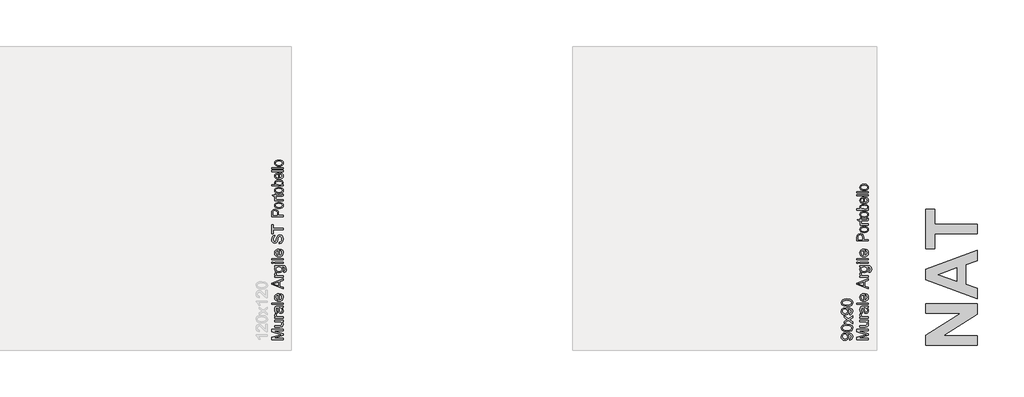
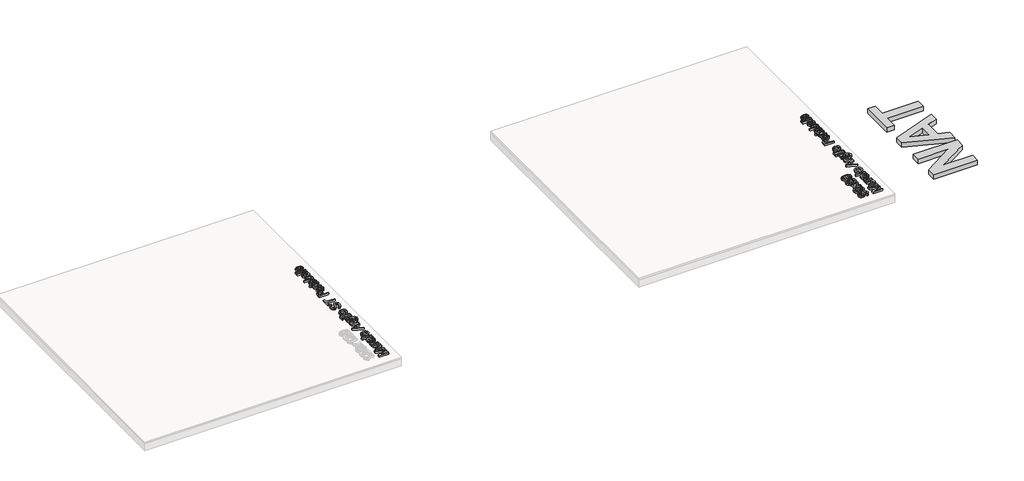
# One storey, part 8 of 21: 6 proxies.
"""IFC4 building model written with IfcOpenShell, lengths in millimetres."""

from ifc_helpers import new_model, si_unit, frame, origin, origin_with_axes, place, context, project, spatial, polyline, outline, extrude, element, save

model = new_model("IFC4")

# Units and contexts
model_context = context("Model", 3, world=origin())
ifc_project = project(units=[si_unit("LENGTHUNIT", "METRE", prefix="MILLI")], contexts=[model_context])

# Site, building, storey
site = spatial("IfcSite", under=ifc_project)
building = spatial("IfcBuilding", under=site)
storey = spatial("IfcBuildingStorey", under=building, Name="PORTOBELLO - SHOWROOM", Elevation=0.0)

# Proxies
placement = place(None, origin())
element("IfcBuildingElementProxy", 1, Name="10mm Arial", ObjectType="10mm Arial", at=placement, inside=storey, context=model_context, shape_type="SweptSolid", body=[
    extrude(outline(polyline([(28359.4625095, 4669.8696803), (28259.0061994, 4669.8696803), (28259.0061994, 4691.4030397), (28329.8112207, 4712.0044314), (28344.6000769, 4716.1737607), (28328.5849474, 4720.6619211), (28259.0061994, 4740.8709053), (28259.0061994, 4762.4778412), (28359.4625095, 4762.4778412), (28359.4625095, 4749.9208024), (28271.5632382, 4749.9208024), (28359.4625095, 4724.6840975), (28359.4625095, 4707.6879494), (28271.5632382, 4682.426719), (28359.4625095, 4682.426719), (28359.4625095, 4669.8696803)])), frame((0.0, 0.0, 18.0), z_axis=(0.0, 0.0, 1.0), x_axis=(1.0, 0.0, 0.0)), (0.0, 0.0, 1.0), 20.0),
    extrude(outline(polyline([(28359.4625095, 4829.9719246), (28346.7828434, 4829.9719246), (28357.4698154, 4820.1372126), (28361.0321394, 4807.3103937), (28358.5305418, 4795.5013816), (28352.2520224, 4787.3589268), (28343.0059216, 4783.6187932), (28331.3317996, 4782.8830292), (28285.6899068, 4782.8830292), (28285.6899068, 4795.4400679), (28325.4211622, 4795.4400679), (28338.2234557, 4796.2003574), (28345.7405111, 4801.1667643), (28348.4751006, 4810.5232297), (28345.6791974, 4821.0078666), (28338.0640401, 4827.9363109), (28324.0722616, 4829.9719246), (28285.6899068, 4829.9719246), (28285.6899068, 4842.5289633), (28359.4625095, 4842.5289633), (28359.4625095, 4829.9719246)])), frame((0.0, 0.0, 18.0), z_axis=(0.0, 0.0, 1.0), x_axis=(1.0, 0.0, 0.0)), (0.0, 0.0, 1.0), 20.0),
    extrude(outline(polyline([(28359.4625095, 4859.7948916), (28285.6899068, 4859.7948916), (28285.6899068, 4870.7823006), (28296.6037393, 4870.7823006), (28286.5482981, 4878.5813989), (28284.1202769, 4886.4295481), (28287.9953006, 4899.0356378), (28299.2524897, 4894.841783), (28296.6773157, 4886.0126152), (28299.1543878, 4878.9124927), (28306.0215184, 4874.3875441), (28320.6877472, 4872.3519304), (28359.4625095, 4872.3519304), (28359.4625095, 4859.7948916)])), frame((0.0, 0.0, 18.0), z_axis=(0.0, 0.0, 1.0), x_axis=(1.0, 0.0, 0.0)), (0.0, 0.0, 1.0), 20.0),
    extrude(outline(polyline([(28350.0447305, 4953.9726824), (28358.5550673, 4941.7957884), (28361.0321394, 4928.3435701), (28359.5422173, 4917.8497362), (28355.0724511, 4910.1088858), (28348.2850282, 4905.335617), (28339.8421365, 4903.7445273), (28329.9093226, 4906.148023), (28322.6988355, 4912.4633306), (28318.5785571, 4921.2557103), (28316.6900962, 4932.1204919), (28312.3736142, 4953.899106), (28309.577711, 4953.9726824), (28300.3070847, 4950.5145916), (28296.6773157, 4936.6331777), (28299.0930741, 4923.9289861), (28307.6647246, 4917.8711959), (28306.0950948, 4905.3141572), (28293.8323616, 4910.746548), (28286.6464, 4921.684906), (28284.1202769, 4938.2518585), (28286.3520944, 4953.4699103), (28291.9561634, 4962.0660863), (28300.478763, 4965.9165845), (28311.4661719, 4966.5297212), (28327.088894, 4966.5297212), (28348.9042963, 4967.1673833), (28359.4625095, 4969.6689809), (28359.4625095, 4957.1119421), (28350.0447305, 4953.9726824)]), holes=[polyline([(28324.9306529, 4953.9726824), (28328.7811511, 4933.7146472), (28330.8167648, 4922.9111793), (28334.1277028, 4918.0183487), (28338.9592197, 4916.3015661), (28345.7527738, 4920.0416997), (28348.4751006, 4931.0168459), (28345.470731, 4943.7210375), (28338.1989302, 4951.9125432), (28328.4868455, 4953.899106), (28324.9306529, 4953.9726824)])]), frame((0.0, 0.0, 18.0), z_axis=(0.0, 0.0, 1.0), x_axis=(1.0, 0.0, 0.0)), (0.0, 0.0, 1.0), 20.0),
    extrude(outline(polyline([(28359.4625095, 4983.7956495), (28259.0061994, 4983.7956495), (28259.0061994, 4996.3526882), (28359.4625095, 4996.3526882), (28359.4625095, 4983.7956495)])), frame((0.0, 0.0, 18.0), z_axis=(0.0, 0.0, 1.0), x_axis=(1.0, 0.0, 0.0)), (0.0, 0.0, 1.0), 20.0),
    extrude(outline(polyline([(28337.4876917, 5066.8388785), (28339.0573215, 5079.1506626), (28348.3340792, 5074.7146189), (28355.2686548, 5067.6359562), (28359.5912682, 5058.07409), (28361.0321394, 5046.1884359), (28358.5458702, 5031.454762), (28351.0870628, 5020.1178651), (28339.140095, 5012.8889839), (28323.1893448, 5010.4793569), (28306.7021001, 5012.9135094), (28294.3719219, 5020.215967), (28286.6831882, 5031.3995797), (28284.1202769, 5045.4771973), (28286.6770568, 5059.1164223), (28294.3473964, 5070.0149264), (28306.6530491, 5077.1610342), (28323.1157684, 5079.5430701), (28326.5002828, 5079.4694937), (28326.5002828, 5023.0363956), (28335.8996677, 5025.2099651), (28342.8097179, 5030.2591455), (28347.0587549, 5037.5462747), (28348.4751006, 5046.4336905), (28345.8508757, 5058.7454746), (28337.4876917, 5066.8388785)]), holes=[polyline([(28313.943244, 5023.0363956), (28313.943244, 5066.9860313), (28302.5634276, 5061.9583107), (28298.1488437, 5054.637459), (28296.6773157, 5045.4281464), (28301.3739425, 5029.9648399), (28306.8645813, 5025.0996005), (28313.943244, 5023.0363956)])]), frame((0.0, 0.0, 18.0), z_axis=(0.0, 0.0, 1.0), x_axis=(1.0, 0.0, 0.0)), (0.0, 0.0, 1.0), 20.0),
    extrude(outline(polyline([(28359.4625095, 5121.2363629), (28259.0061994, 5161.3355003), (28259.0061994, 5172.0286037), (28359.4625095, 5212.1032157), (28359.4625095, 5198.8349384), (28328.0699126, 5187.3570201), (28328.0699126, 5145.9580329), (28359.4625095, 5134.4801147), (28359.4625095, 5121.2363629)]), holes=[polyline([(28315.5128738, 5150.5688206), (28315.5128738, 5182.7707579), (28290.8157292, 5173.6963354), (28271.5632382, 5166.6575265), (28288.6574882, 5160.4035326), (28315.5128738, 5150.5688206)])]), frame((0.0, 0.0, 18.0), z_axis=(0.0, 0.0, 1.0), x_axis=(1.0, 0.0, 0.0)), (0.0, 0.0, 1.0), 20.0),
    extrude(outline(polyline([(28359.4625095, 5223.9490159), (28285.6899068, 5223.9490159), (28285.6899068, 5234.9364248), (28296.6037393, 5234.9364248), (28286.5482981, 5242.7355231), (28284.1202769, 5250.5836724), (28287.9953006, 5263.1897621), (28299.2524897, 5258.9959073), (28296.6773157, 5250.1667395), (28299.1543878, 5243.0666169), (28306.0215184, 5238.5416684), (28320.6877472, 5236.5060547), (28359.4625095, 5236.5060547), (28359.4625095, 5223.9490159)])), frame((0.0, 0.0, 18.0), z_axis=(0.0, 0.0, 1.0), x_axis=(1.0, 0.0, 0.0)), (0.0, 0.0, 1.0), 20.0),
    extrude(outline(polyline([(28365.7410289, 5267.8986516), (28367.3106588, 5280.4556904), (28373.9325347, 5284.5269178), (28376.7284378, 5296.7160746), (28373.5646527, 5309.5674189), (28364.6864339, 5315.6987855), (28350.0447305, 5316.5571768), (28357.1080648, 5307.7157462), (28359.4625095, 5296.9368038), (28356.7217887, 5283.9904232), (28348.4996261, 5274.3365865), (28336.4453594, 5268.330913), (28322.2083262, 5266.3290218), (28302.7473686, 5269.9220026), (28288.9763193, 5280.3208003), (28284.1202769, 5296.3236671), (28286.8671292, 5307.5256739), (28295.1076858, 5316.5571768), (28285.6899068, 5316.5571768), (28285.6899068, 5329.1142156), (28349.3825429, 5329.1142156), (28373.7731191, 5325.6806503), (28385.1161473, 5314.803606), (28389.2854766, 5296.4708199), (28387.8170143, 5284.7875009), (28383.4116274, 5275.5873853), (28376.0570532, 5269.685945), (28365.7410289, 5267.8986516)]), holes=[polyline([(28321.3499348, 5278.8860605), (28332.867707, 5280.2257641), (28340.7863669, 5284.2448749), (28345.3756948, 5290.2873367), (28346.9054708, 5297.6970932), (28345.3848919, 5305.0516674), (28340.8231551, 5311.1247861), (28333.0056627, 5315.1990791), (28321.7178168, 5316.5571768), (28310.8315755, 5315.1592253), (28302.9926233, 5310.9653705), (28298.2561426, 5304.8033471), (28296.6773157, 5297.5008895), (28298.2316171, 5290.3302563), (28302.8945214, 5284.3184513), (28310.6169776, 5280.2441582), (28321.3499348, 5278.8860605)])]), frame((0.0, 0.0, 18.0), z_axis=(0.0, 0.0, 1.0), x_axis=(1.0, 0.0, 0.0)), (0.0, 0.0, 1.0), 20.0),
    extrude(outline(polyline([(28271.5632382, 5347.9497738), (28259.0061994, 5347.9497738), (28259.0061994, 5360.5068125), (28271.5632382, 5360.5068125), (28271.5632382, 5347.9497738)])), frame((0.0, 0.0, 18.0), z_axis=(0.0, 0.0, 1.0), x_axis=(1.0, 0.0, 0.0)), (0.0, 0.0, 1.0), 20.0),
    extrude(outline(polyline([(28359.4625095, 5347.9497738), (28285.6899068, 5347.9497738), (28285.6899068, 5360.5068125), (28359.4625095, 5360.5068125), (28359.4625095, 5347.9497738)])), frame((0.0, 0.0, 18.0), z_axis=(0.0, 0.0, 1.0), x_axis=(1.0, 0.0, 0.0)), (0.0, 0.0, 1.0), 20.0),
    extrude(outline(polyline([(28359.4625095, 5379.3423707), (28259.0061994, 5379.3423707), (28259.0061994, 5391.8994095), (28359.4625095, 5391.8994095), (28359.4625095, 5379.3423707)])), frame((0.0, 0.0, 18.0), z_axis=(0.0, 0.0, 1.0), x_axis=(1.0, 0.0, 0.0)), (0.0, 0.0, 1.0), 20.0),
    extrude(outline(polyline([(28337.4876917, 5462.3855997), (28339.0573215, 5474.6973838), (28348.3340792, 5470.2613401), (28355.2686548, 5463.1826774), (28359.5912682, 5453.6208112), (28361.0321394, 5441.7351571), (28358.5458702, 5427.0014832), (28351.0870628, 5415.6645863), (28339.140095, 5408.4357051), (28323.1893448, 5406.0260781), (28306.7021001, 5408.4602306), (28294.3719219, 5415.7626882), (28286.6831882, 5426.9463009), (28284.1202769, 5441.0239185), (28286.6770568, 5454.6631435), (28294.3473964, 5465.5616476), (28306.6530491, 5472.7077554), (28323.1157684, 5475.0897913), (28326.5002828, 5475.0162149), (28326.5002828, 5418.5831168), (28335.8996677, 5420.7566863), (28342.8097179, 5425.8058667), (28347.0587549, 5433.0929959), (28348.4751006, 5441.9804117), (28345.8508757, 5454.2921958), (28337.4876917, 5462.3855997)]), holes=[polyline([(28313.943244, 5418.5831168), (28313.943244, 5462.5327525), (28302.5634276, 5457.5050319), (28298.1488437, 5450.1841802), (28296.6773157, 5440.9748676), (28301.3739425, 5425.5115611), (28306.8645813, 5420.6463217), (28313.943244, 5418.5831168)])]), frame((0.0, 0.0, 18.0), z_axis=(0.0, 0.0, 1.0), x_axis=(1.0, 0.0, 0.0)), (0.0, 0.0, 1.0), 20.0),
])
element("IfcBuildingElementProxy", 2, Name="10mm Arial", ObjectType="10mm Arial", at=placement, inside=storey, context=model_context, shape_type="SweptSolid", body=[
    extrude(outline(polyline([(28194.348432, 4666.7304206), (28192.7788021, 4679.2874593), (28204.7594925, 4684.9283166), (28208.4751006, 4695.6214199), (28206.0838676, 4705.7872257), (28199.6949837, 4712.6788818), (28188.7811511, 4716.7868974), (28174.2130241, 4718.6017819), (28171.7604775, 4718.5282055), (28181.2763584, 4708.485027), (28184.9306529, 4694.7139777), (28182.6988355, 4683.2636506), (28176.0033832, 4673.7324412), (28165.6597677, 4667.3037033), (28152.4834609, 4665.1607907), (28138.8718271, 4667.4079366), (28128.2032493, 4674.1493741), (28121.3054619, 4684.2753261), (28119.0061994, 4696.676015), (28124.2546492, 4714.5673427), (28139.2151837, 4726.8791268), (28167.3213681, 4731.0852443), (28197.8187855, 4726.8913895), (28207.8098473, 4721.6766622), (28215.0969765, 4714.4201899), (28219.5483487, 4705.4346721), (28221.0321394, 4695.0328087), (28219.2816342, 4684.2967858), (28214.0301187, 4675.7312667), (28205.6086867, 4669.7409216), (28194.348432, 4666.7304206)]), holes=[polyline([(28152.1891553, 4718.5282055), (28143.6788185, 4717.1731735), (28137.130519, 4713.1080774), (28132.9550584, 4706.7989012), (28131.5632382, 4698.7116287), (28133.0623573, 4690.3239192), (28137.5597147, 4683.6039414), (28144.4421737, 4679.1893575), (28153.0965976, 4677.7178295), (28160.855842, 4679.1096497), (28167.0147998, 4683.2851103), (28171.0339106, 4689.8395412), (28172.3736142, 4698.3682722), (28167.0147998, 4712.85056), (28160.6289815, 4717.1087941), (28152.1891553, 4718.5282055)])]), frame((0.0, 0.0, 18.0), z_axis=(0.0, 0.0, 1.0), x_axis=(1.0, 0.0, 0.0)), (0.0, 0.0, 1.0), 20.0),
    extrude(outline(polyline([(28170.0436948, 4742.0726532), (28141.1404328, 4745.7637359), (28124.4753784, 4756.7266193), (28119.0061994, 4775.0348799), (28122.2435609, 4789.7011088), (28131.5755009, 4799.8301264), (28146.4379335, 4805.7162383), (28170.0436948, 4807.9971067), (28198.8243296, 4804.3428122), (28215.5261722, 4793.416717), (28219.6556476, 4785.1853573), (28221.0321394, 4775.0348799), (28218.6409064, 4761.9873319), (28211.4672075, 4752.0790434), (28194.4771907, 4744.5742507), (28170.0436948, 4742.0726532)]), holes=[polyline([(28170.0191694, 4754.6296919), (28189.7713668, 4756.1012199), (28201.2032998, 4760.5158039), (28206.6571504, 4767.0886289), (28208.4751006, 4775.0348799), (28206.6510191, 4782.981131), (28201.1787744, 4789.553956), (28189.74071, 4793.96854), (28170.0191694, 4795.4400679), (28150.711496, 4794.0175909), (28139.1906582, 4789.7501598), (28133.4700932, 4783.1895975), (28131.5632382, 4774.8877271), (28133.2432326, 4767.0273152), (28138.2832159, 4760.7120076), (28150.5214236, 4756.1502709), (28170.0191694, 4754.6296919)])]), frame((0.0, 0.0, 18.0), z_axis=(0.0, 0.0, 1.0), x_axis=(1.0, 0.0, 0.0)), (0.0, 0.0, 1.0), 20.0),
    extrude(outline(polyline([(28219.4625095, 4814.2756261), (28182.355479, 4841.1064863), (28145.6899068, 4815.8452559), (28145.6899068, 4830.9038923), (28163.372768, 4843.0930491), (28171.6869011, 4848.8074827), (28164.8688214, 4853.7616269), (28145.6899068, 4867.6430409), (28145.6899068, 4882.7507281), (28182.3800044, 4856.2141735), (28219.4625095, 4881.7697095), (28219.4625095, 4866.6865477), (28197.1443352, 4851.2845548), (28193.0485823, 4848.4886516), (28219.4625095, 4829.3833134), (28219.4625095, 4814.2756261)])), frame((0.0, 0.0, 18.0), z_axis=(0.0, 0.0, 1.0), x_axis=(1.0, 0.0, 0.0)), (0.0, 0.0, 1.0), 20.0),
    extrude(outline(polyline([(28194.348432, 4891.1874886), (28192.7788021, 4903.7445273), (28204.7594925, 4909.3853846), (28208.4751006, 4920.0784879), (28206.0838676, 4930.2442937), (28199.6949837, 4937.1359498), (28188.7811511, 4941.2439654), (28174.2130241, 4943.0588499), (28171.7604775, 4942.9852735), (28181.2763584, 4932.942095), (28184.9306529, 4919.1710457), (28182.6988355, 4907.7207186), (28176.0033832, 4898.1895092), (28165.6597677, 4891.7607713), (28152.4834609, 4889.6178587), (28138.8718271, 4891.8650046), (28128.2032493, 4898.6064421), (28121.3054619, 4908.732394), (28119.0061994, 4921.133083), (28124.2546492, 4939.0244107), (28139.2151837, 4951.3361948), (28167.3213681, 4955.5423122), (28197.8187855, 4951.3484575), (28207.8098473, 4946.1337302), (28215.0969765, 4938.8772579), (28219.5483487, 4929.8917401), (28221.0321394, 4919.4898767), (28219.2816342, 4908.7538538), (28214.0301187, 4900.1883347), (28205.6086867, 4894.1979896), (28194.348432, 4891.1874886)]), holes=[polyline([(28152.1891553, 4942.9852735), (28143.6788185, 4941.6302415), (28137.130519, 4937.5651454), (28132.9550584, 4931.2559692), (28131.5632382, 4923.1686967), (28133.0623573, 4914.7809872), (28137.5597147, 4908.0610094), (28144.4421737, 4903.6464255), (28153.0965976, 4902.1748975), (28160.855842, 4903.5667177), (28167.0147998, 4907.7421783), (28171.0339106, 4914.2966092), (28172.3736142, 4922.8253401), (28167.0147998, 4937.307628), (28160.6289815, 4941.5658621), (28152.1891553, 4942.9852735)])]), frame((0.0, 0.0, 18.0), z_axis=(0.0, 0.0, 1.0), x_axis=(1.0, 0.0, 0.0)), (0.0, 0.0, 1.0), 20.0),
    extrude(outline(polyline([(28170.0436948, 4966.5297212), (28141.1404328, 4970.2208039), (28124.4753784, 4981.1836873), (28119.0061994, 4999.4919479), (28122.2435609, 5014.1581768), (28131.5755009, 5024.2871944), (28146.4379335, 5030.1733063), (28170.0436948, 5032.4541747), (28198.8243296, 5028.7998802), (28215.5261722, 5017.873785), (28219.6556476, 5009.6424253), (28221.0321394, 4999.4919479), (28218.6409064, 4986.4443998), (28211.4672075, 4976.5361114), (28194.4771907, 4969.0313187), (28170.0436948, 4966.5297212)]), holes=[polyline([(28170.0191694, 4979.0867599), (28189.7713668, 4980.5582879), (28201.2032998, 4984.9728719), (28206.6571504, 4991.5456968), (28208.4751006, 4999.4919479), (28206.6510191, 5007.438199), (28201.1787744, 5014.011024), (28189.74071, 5018.425608), (28170.0191694, 5019.8971359), (28150.711496, 5018.4746589), (28139.1906582, 5014.2072277), (28133.4700932, 5007.6466655), (28131.5632382, 4999.3447951), (28133.2432326, 4991.4843832), (28138.2832159, 4985.1690756), (28150.5214236, 4980.6073389), (28170.0191694, 4979.0867599)])]), frame((0.0, 0.0, 18.0), z_axis=(0.0, 0.0, 1.0), x_axis=(1.0, 0.0, 0.0)), (0.0, 0.0, 1.0), 20.0),
])
element("IfcBuildingElementProxy", 3, Name="10mm Arial", ObjectType="10mm Arial", at=placement, inside=storey, context=model_context, shape_type="SweptSolid", body=[
    extrude(outline(polyline([(23159.4374935, 4669.8696803), (23058.9811833, 4669.8696803), (23058.9811833, 4691.4030397), (23129.7862046, 4712.0044314), (23144.5750608, 4716.1737607), (23128.5599313, 4720.6619211), (23058.9811833, 4740.8709053), (23058.9811833, 4762.4778412), (23159.4374935, 4762.4778412), (23159.4374935, 4749.9208024), (23071.5382221, 4749.9208024), (23159.4374935, 4724.6840975), (23159.4374935, 4707.6879494), (23071.5382221, 4682.426719), (23159.4374935, 4682.426719), (23159.4374935, 4669.8696803)])), frame((0.0, 0.0, 17.0), z_axis=(0.0, 0.0, 1.0), x_axis=(1.0, 0.0, 0.0)), (0.0, 0.0, 1.0), 20.0),
    extrude(outline(polyline([(23159.4374935, 4829.9719246), (23146.7578274, 4829.9719246), (23157.4447993, 4820.1372126), (23161.0071233, 4807.3103937), (23158.5055257, 4795.5013816), (23152.2270063, 4787.3589268), (23142.9809055, 4783.6187932), (23131.3067836, 4782.8830292), (23085.6648907, 4782.8830292), (23085.6648907, 4795.4400679), (23125.3961462, 4795.4400679), (23138.1984396, 4796.2003574), (23145.715495, 4801.1667643), (23148.4500845, 4810.5232297), (23145.6541814, 4821.0078666), (23138.0390241, 4827.9363109), (23124.0472455, 4829.9719246), (23085.6648907, 4829.9719246), (23085.6648907, 4842.5289633), (23159.4374935, 4842.5289633), (23159.4374935, 4829.9719246)])), frame((0.0, 0.0, 17.0), z_axis=(0.0, 0.0, 1.0), x_axis=(1.0, 0.0, 0.0)), (0.0, 0.0, 1.0), 20.0),
    extrude(outline(polyline([(23159.4374935, 4859.7948916), (23085.6648907, 4859.7948916), (23085.6648907, 4870.7823006), (23096.5787232, 4870.7823006), (23086.523282, 4878.5813989), (23084.0952608, 4886.4295481), (23087.9702845, 4899.0356378), (23099.2274736, 4894.841783), (23096.6522996, 4886.0126152), (23099.1293717, 4878.9124927), (23105.9965023, 4874.3875441), (23120.6627312, 4872.3519304), (23159.4374935, 4872.3519304), (23159.4374935, 4859.7948916)])), frame((0.0, 0.0, 17.0), z_axis=(0.0, 0.0, 1.0), x_axis=(1.0, 0.0, 0.0)), (0.0, 0.0, 1.0), 20.0),
    extrude(outline(polyline([(23150.0197144, 4953.9726824), (23158.5300512, 4941.7957884), (23161.0071233, 4928.3435701), (23159.5172012, 4917.8497362), (23155.047435, 4910.1088858), (23148.2600122, 4905.335617), (23139.8171204, 4903.7445273), (23129.8843065, 4906.148023), (23122.6738194, 4912.4633306), (23118.5535411, 4921.2557103), (23116.6650801, 4932.1204919), (23112.3485981, 4953.899106), (23109.5526949, 4953.9726824), (23100.2820686, 4950.5145916), (23096.6522996, 4936.6331777), (23099.068058, 4923.9289861), (23107.6397085, 4917.8711959), (23106.0700787, 4905.3141572), (23093.8073455, 4910.746548), (23086.6213839, 4921.684906), (23084.0952608, 4938.2518585), (23086.3270783, 4953.4699103), (23091.9311473, 4962.0660863), (23100.4537469, 4965.9165845), (23111.4411558, 4966.5297212), (23127.0638779, 4966.5297212), (23148.8792802, 4967.1673833), (23159.4374935, 4969.6689809), (23159.4374935, 4957.1119421), (23150.0197144, 4953.9726824)]), holes=[polyline([(23124.9056368, 4953.9726824), (23128.7561351, 4933.7146472), (23130.7917488, 4922.9111793), (23134.1026867, 4918.0183487), (23138.9342036, 4916.3015661), (23145.7277578, 4920.0416997), (23148.4500845, 4931.0168459), (23145.4457149, 4943.7210375), (23138.1739141, 4951.9125432), (23128.4618295, 4953.899106), (23124.9056368, 4953.9726824)])]), frame((0.0, 0.0, 17.0), z_axis=(0.0, 0.0, 1.0), x_axis=(1.0, 0.0, 0.0)), (0.0, 0.0, 1.0), 20.0),
    extrude(outline(polyline([(23159.4374935, 4983.7956495), (23058.9811833, 4983.7956495), (23058.9811833, 4996.3526882), (23159.4374935, 4996.3526882), (23159.4374935, 4983.7956495)])), frame((0.0, 0.0, 17.0), z_axis=(0.0, 0.0, 1.0), x_axis=(1.0, 0.0, 0.0)), (0.0, 0.0, 1.0), 20.0),
    extrude(outline(polyline([(23137.4626756, 5066.8388785), (23139.0323055, 5079.1506626), (23148.3090631, 5074.7146189), (23155.2436387, 5067.6359562), (23159.5662521, 5058.07409), (23161.0071233, 5046.1884359), (23158.5208541, 5031.454762), (23151.0620467, 5020.1178651), (23139.1150789, 5012.8889839), (23123.1643287, 5010.4793569), (23106.677084, 5012.9135094), (23094.3469058, 5020.215967), (23086.6581721, 5031.3995797), (23084.0952608, 5045.4771973), (23086.6520407, 5059.1164223), (23094.3223803, 5070.0149264), (23106.628033, 5077.1610342), (23123.0907523, 5079.5430701), (23126.4752667, 5079.4694937), (23126.4752667, 5023.0363956), (23135.8746517, 5025.2099651), (23142.7847018, 5030.2591455), (23147.0337388, 5037.5462747), (23148.4500845, 5046.4336905), (23145.8258596, 5058.7454746), (23137.4626756, 5066.8388785)]), holes=[polyline([(23113.9182279, 5023.0363956), (23113.9182279, 5066.9860313), (23102.5384115, 5061.9583107), (23098.1238276, 5054.637459), (23096.6522996, 5045.4281464), (23101.3489264, 5029.9648399), (23106.8395652, 5025.0996005), (23113.9182279, 5023.0363956)])]), frame((0.0, 0.0, 17.0), z_axis=(0.0, 0.0, 1.0), x_axis=(1.0, 0.0, 0.0)), (0.0, 0.0, 1.0), 20.0),
    extrude(outline(polyline([(23159.4374935, 5121.2363629), (23058.9811833, 5161.3355003), (23058.9811833, 5172.0286037), (23159.4374935, 5212.1032157), (23159.4374935, 5198.8349384), (23128.0448965, 5187.3570201), (23128.0448965, 5145.9580329), (23159.4374935, 5134.4801147), (23159.4374935, 5121.2363629)]), holes=[polyline([(23115.4878578, 5150.5688206), (23115.4878578, 5182.7707579), (23090.7907132, 5173.6963354), (23071.5382221, 5166.6575265), (23088.6324721, 5160.4035326), (23115.4878578, 5150.5688206)])]), frame((0.0, 0.0, 17.0), z_axis=(0.0, 0.0, 1.0), x_axis=(1.0, 0.0, 0.0)), (0.0, 0.0, 1.0), 20.0),
    extrude(outline(polyline([(23159.4374935, 5223.9490159), (23085.6648907, 5223.9490159), (23085.6648907, 5234.9364248), (23096.5787232, 5234.9364248), (23086.523282, 5242.7355231), (23084.0952608, 5250.5836724), (23087.9702845, 5263.1897621), (23099.2274736, 5258.9959073), (23096.6522996, 5250.1667395), (23099.1293717, 5243.0666169), (23105.9965023, 5238.5416684), (23120.6627312, 5236.5060547), (23159.4374935, 5236.5060547), (23159.4374935, 5223.9490159)])), frame((0.0, 0.0, 17.0), z_axis=(0.0, 0.0, 1.0), x_axis=(1.0, 0.0, 0.0)), (0.0, 0.0, 1.0), 20.0),
    extrude(outline(polyline([(23165.7160128, 5267.8986516), (23167.2856427, 5280.4556904), (23173.9075186, 5284.5269178), (23176.7034218, 5296.7160746), (23173.5396366, 5309.5674189), (23164.6614178, 5315.6987855), (23150.0197144, 5316.5571768), (23157.0830487, 5307.7157462), (23159.4374935, 5296.9368038), (23156.6967726, 5283.9904232), (23148.47461, 5274.3365865), (23136.4203433, 5268.330913), (23122.1833101, 5266.3290218), (23102.7223525, 5269.9220026), (23088.9513032, 5280.3208003), (23084.0952608, 5296.3236671), (23086.8421131, 5307.5256739), (23095.0826698, 5316.5571768), (23085.6648907, 5316.5571768), (23085.6648907, 5329.1142156), (23149.3575268, 5329.1142156), (23173.7481031, 5325.6806503), (23185.0911312, 5314.803606), (23189.2604605, 5296.4708199), (23187.7919982, 5284.7875009), (23183.3866113, 5275.5873853), (23176.0320371, 5269.685945), (23165.7160128, 5267.8986516)]), holes=[polyline([(23121.3249188, 5278.8860605), (23132.8426909, 5280.2257641), (23140.7613508, 5284.2448749), (23145.3506787, 5290.2873367), (23146.8804547, 5297.6970932), (23145.3598758, 5305.0516674), (23140.798139, 5311.1247861), (23132.9806466, 5315.1990791), (23121.6928007, 5316.5571768), (23110.8065594, 5315.1592253), (23102.9676072, 5310.9653705), (23098.2311265, 5304.8033471), (23096.6522996, 5297.5008895), (23098.206601, 5290.3302563), (23102.8695053, 5284.3184513), (23110.5919615, 5280.2441582), (23121.3249188, 5278.8860605)])]), frame((0.0, 0.0, 17.0), z_axis=(0.0, 0.0, 1.0), x_axis=(1.0, 0.0, 0.0)), (0.0, 0.0, 1.0), 20.0),
    extrude(outline(polyline([(23071.5382221, 5347.9497738), (23058.9811833, 5347.9497738), (23058.9811833, 5360.5068125), (23071.5382221, 5360.5068125), (23071.5382221, 5347.9497738)])), frame((0.0, 0.0, 17.0), z_axis=(0.0, 0.0, 1.0), x_axis=(1.0, 0.0, 0.0)), (0.0, 0.0, 1.0), 20.0),
    extrude(outline(polyline([(23159.4374935, 5347.9497738), (23085.6648907, 5347.9497738), (23085.6648907, 5360.5068125), (23159.4374935, 5360.5068125), (23159.4374935, 5347.9497738)])), frame((0.0, 0.0, 17.0), z_axis=(0.0, 0.0, 1.0), x_axis=(1.0, 0.0, 0.0)), (0.0, 0.0, 1.0), 20.0),
    extrude(outline(polyline([(23159.4374935, 5379.3423707), (23058.9811833, 5379.3423707), (23058.9811833, 5391.8994095), (23159.4374935, 5391.8994095), (23159.4374935, 5379.3423707)])), frame((0.0, 0.0, 17.0), z_axis=(0.0, 0.0, 1.0), x_axis=(1.0, 0.0, 0.0)), (0.0, 0.0, 1.0), 20.0),
    extrude(outline(polyline([(23137.4626756, 5462.3855997), (23139.0323055, 5474.6973838), (23148.3090631, 5470.2613401), (23155.2436387, 5463.1826774), (23159.5662521, 5453.6208112), (23161.0071233, 5441.7351571), (23158.5208541, 5427.0014832), (23151.0620467, 5415.6645863), (23139.1150789, 5408.4357051), (23123.1643287, 5406.0260781), (23106.677084, 5408.4602306), (23094.3469058, 5415.7626882), (23086.6581721, 5426.9463009), (23084.0952608, 5441.0239185), (23086.6520407, 5454.6631435), (23094.3223803, 5465.5616476), (23106.628033, 5472.7077554), (23123.0907523, 5475.0897913), (23126.4752667, 5475.0162149), (23126.4752667, 5418.5831168), (23135.8746517, 5420.7566863), (23142.7847018, 5425.8058667), (23147.0337388, 5433.0929959), (23148.4500845, 5441.9804117), (23145.8258596, 5454.2921958), (23137.4626756, 5462.3855997)]), holes=[polyline([(23113.9182279, 5418.5831168), (23113.9182279, 5462.5327525), (23102.5384115, 5457.5050319), (23098.1238276, 5450.1841802), (23096.6522996, 5440.9748676), (23101.3489264, 5425.5115611), (23106.8395652, 5420.6463217), (23113.9182279, 5418.5831168)])]), frame((0.0, 0.0, 17.0), z_axis=(0.0, 0.0, 1.0), x_axis=(1.0, 0.0, 0.0)), (0.0, 0.0, 1.0), 20.0),
    extrude(outline(polyline([(23124.9056368, 5523.7483165), (23124.9056368, 5536.3053553), (23137.4749383, 5540.3520572), (23145.4211894, 5550.2358202), (23148.4500845, 5565.2944565), (23146.1569534, 5578.415581), (23139.8539086, 5586.8891296), (23131.4294109, 5589.6727701), (23123.5935244, 5587.5881054), (23117.8913535, 5579.0532431), (23113.0966248, 5560.769508), (23106.9039445, 5541.0878212), (23097.5597419, 5530.4069806), (23085.0762795, 5526.8875762), (23070.8637717, 5531.2408465), (23060.832856, 5543.9573008), (23057.4115535, 5562.5721298), (23060.9922715, 5582.4377575), (23071.5136966, 5595.6815093), (23087.2345205, 5600.660179), (23087.2345205, 5588.1031402), (23079.7419906, 5585.7977464), (23074.3341252, 5580.990755), (23069.9685922, 5563.0626391), (23074.2850743, 5545.0854723), (23084.7083975, 5539.444615), (23093.414938, 5543.442266), (23100.4292214, 5563.9455559), (23106.7322663, 5586.1656284), (23116.9103348, 5598.317997), (23131.1105798, 5602.2298088), (23146.132428, 5597.7293858), (23157.0953114, 5584.7799395), (23161.0071233, 5565.7849658), (23156.7887431, 5543.3564269), (23144.0845515, 5529.1684446), (23124.9056368, 5523.7483165)])), frame((0.0, 0.0, 17.0), z_axis=(0.0, 0.0, 1.0), x_axis=(1.0, 0.0, 0.0)), (0.0, 0.0, 1.0), 20.0),
    extrude(outline(polyline([(23159.4374935, 5646.1794445), (23071.5382221, 5646.1794445), (23071.5382221, 5613.2172178), (23058.9811833, 5613.2172178), (23058.9811833, 5691.6987101), (23071.5382221, 5691.6987101), (23071.5382221, 5658.7364833), (23159.4374935, 5658.7364833), (23159.4374935, 5646.1794445)])), frame((0.0, 0.0, 17.0), z_axis=(0.0, 0.0, 1.0), x_axis=(1.0, 0.0, 0.0)), (0.0, 0.0, 1.0), 20.0),
])
element("IfcBuildingElementProxy", 4, Name="10mm Arial Narrow", ObjectType="10mm Arial Narrow", at=placement, inside=storey, context=model_context, shape_type="SweptSolid", body=[
    extrude(outline(polyline([(28359.4625095, 5549.588476), (28258.7439058, 5549.588476), (28258.7439058, 5580.8853607), (28260.6222265, 5597.1810622), (28270.1026697, 5608.6540483), (28287.1217785, 5612.9437267), (28299.197604, 5611.1574183), (28308.8239978, 5605.7984931), (28315.1252562, 5596.0547043), (28317.2256757, 5581.1138051), (28317.2256757, 5559.3354376), (28359.4625095, 5559.3354376), (28359.4625095, 5549.588476)]), holes=[polyline([(28305.8542204, 5559.3354376), (28305.8542204, 5582.3067926), (28301.3234062, 5598.170988), (28287.6548155, 5603.1967651), (28277.4890391, 5600.7219506), (28271.6890892, 5594.7443218), (28270.115361, 5582.0783482), (28270.115361, 5559.3354376), (28305.8542204, 5559.3354376)])]), frame((0.0, 0.0, 18.0), z_axis=(0.0, 0.0, 1.0), x_axis=(1.0, 0.0, 0.0)), (0.0, 0.0, 1.0), 20.0),
    extrude(outline(polyline([(28322.9114033, 5621.0661948), (28306.3206278, 5623.0206637), (28294.368543, 5628.8840703), (28287.1439884, 5637.742637), (28284.7358035, 5648.6825861), (28287.1439884, 5659.4956217), (28294.368543, 5668.3795711), (28306.1302574, 5674.3191259), (28322.149922, 5676.2989775), (28339.3118085, 5674.3540271), (28351.4542637, 5668.5191761), (28358.6788183, 5659.6701279), (28361.0870031, 5648.6825861), (28358.6724726, 5637.821958), (28351.428881, 5628.9475271), (28339.4704505, 5623.0365278), (28322.9114033, 5621.0661948)]), holes=[polyline([(28322.8860206, 5630.8131564), (28335.437772, 5632.1171933), (28344.3090301, 5636.0293039), (28349.5822886, 5641.8705006), (28351.3400415, 5648.961796), (28349.5664244, 5655.6818691), (28344.2455733, 5661.3739424), (28335.358451, 5665.2574975), (28322.8860206, 5666.5520158), (28310.3723433, 5665.247979), (28301.5137766, 5661.3358684), (28296.240518, 5655.4946716), (28294.4827652, 5648.4033763), (28296.2500365, 5641.6357105), (28301.5518506, 5635.9531557), (28310.4199359, 5632.0981563), (28322.8860206, 5630.8131564)])]), frame((0.0, 0.0, 18.0), z_axis=(0.0, 0.0, 1.0), x_axis=(1.0, 0.0, 0.0)), (0.0, 0.0, 1.0), 20.0),
    extrude(outline(polyline([(28351.3400415, 5747.7766963), (28361.0870031, 5749.4011899), (28361.0870031, 5742.0402032), (28358.9675466, 5733.7654389), (28353.1675968, 5729.4503777), (28338.5217716, 5728.282773), (28296.1072588, 5728.282773), (28296.1072588, 5720.1603049), (28292.8582716, 5720.1603049), (28297.7317524, 5718.5358113), (28296.1072588, 5710.9717629), (28298.429777, 5704.8926033), (28304.9150601, 5701.0217396), (28320.3223666, 5699.041888), (28359.4625095, 5699.041888), (28359.4625095, 5689.2949264), (28286.3602971, 5689.2949264), (28286.3602971, 5699.041888), (28296.0564934, 5699.041888), (28286.9694822, 5705.2860353), (28284.7358035, 5711.6824789), (28286.3602971, 5720.1603049), (28286.3602971, 5728.282773), (28270.115361, 5728.282773), (28261.992893, 5738.0297346), (28286.3602971, 5738.0297346), (28286.3602971, 5747.7766963), (28296.1072588, 5747.7766963), (28296.1072588, 5738.0297346), (28340.7554503, 5738.0297346), (28348.7510048, 5738.8927468), (28351.3400415, 5743.5124006), (28351.3400415, 5747.7766963)])), frame((0.0, 0.0, 18.0), z_axis=(0.0, 0.0, 1.0), x_axis=(1.0, 0.0, 0.0)), (0.0, 0.0, 1.0), 20.0),
    extrude(outline(polyline([(28322.9114033, 5754.2746707), (28306.3206278, 5756.2291396), (28294.368543, 5762.0925462), (28287.1439884, 5770.9511129), (28284.7358035, 5781.8910621), (28287.1439884, 5792.7040976), (28294.368543, 5801.5880471), (28306.1302574, 5807.5276018), (28322.149922, 5809.5074534), (28339.3118085, 5807.5625031), (28351.4542637, 5801.727652), (28358.6788183, 5792.8786038), (28361.0870031, 5781.8910621), (28358.6724726, 5771.0304339), (28351.428881, 5762.156003), (28339.4704505, 5756.2450038), (28322.9114033, 5754.2746707)]), holes=[polyline([(28322.8860206, 5764.0216324), (28335.437772, 5765.3256692), (28344.3090301, 5769.2377798), (28349.5822886, 5775.0789766), (28351.3400415, 5782.1702719), (28349.5664244, 5788.8903451), (28344.2455733, 5794.5824184), (28335.358451, 5798.4659734), (28322.8860206, 5799.7604918), (28310.3723433, 5798.4564549), (28301.5137766, 5794.5443443), (28296.240518, 5788.7031476), (28294.4827652, 5781.6118522), (28296.2500365, 5774.8441865), (28301.5518506, 5769.1616317), (28310.4199359, 5765.3066322), (28322.8860206, 5764.0216324)])]), frame((0.0, 0.0, 18.0), z_axis=(0.0, 0.0, 1.0), x_axis=(1.0, 0.0, 0.0)), (0.0, 0.0, 1.0), 20.0),
    extrude(outline(polyline([(28359.4625095, 5832.2503639), (28359.4625095, 5822.5034023), (28258.7439058, 5822.5034023), (28258.7439058, 5832.2503639), (28294.1527899, 5832.2503639), (28287.0710131, 5839.6494247), (28284.7358035, 5848.850658), (28288.9366425, 5861.7323847), (28301.6660729, 5871.0097661), (28322.3529837, 5874.4871978), (28338.8073271, 5872.5549388), (28351.0100662, 5866.7581618), (28358.5677689, 5858.3850394), (28361.0870031, 5848.7237444), (28358.4725837, 5839.3829062), (28350.7054737, 5832.2503639), (28359.4625095, 5832.2503639)]), holes=[polyline([(28322.3529837, 5832.2503639), (28339.6005369, 5834.3317464), (28348.33219, 5840.2205357), (28351.3400415, 5848.672979), (28349.5505602, 5854.6157066), (28344.1821165, 5859.8540639), (28322.7591071, 5864.7402361), (28301.3234062, 5860.0317429), (28296.1929254, 5854.7870399), (28294.4827652, 5848.4699173), (28296.2722464, 5842.4922885), (28301.6406901, 5837.1999929), (28322.3529837, 5832.2503639)])]), frame((0.0, 0.0, 18.0), z_axis=(0.0, 0.0, 1.0), x_axis=(1.0, 0.0, 0.0)), (0.0, 0.0, 1.0), 20.0),
    extrude(outline(polyline([(28336.719599, 5926.4709933), (28338.3440926, 5936.2179549), (28348.2306592, 5932.5184245), (28355.3505101, 5926.6994377), (28359.6528799, 5918.9957844), (28361.0870031, 5909.6422548), (28358.6724726, 5898.0487008), (28351.428881, 5888.9045785), (28339.6227468, 5882.9650238), (28323.5205884, 5880.9851722), (28306.8536647, 5882.9745423), (28294.6731355, 5888.9426526), (28287.2201365, 5897.9566884), (28284.7358035, 5909.0838351), (28287.1344699, 5919.7667843), (28294.3304689, 5928.5143016), (28306.0699735, 5934.3491527), (28322.0991565, 5936.294103), (28325.3481437, 5936.2179549), (28325.3481437, 5890.7321339), (28344.7913016, 5896.7351454), (28349.7028565, 5902.6651816), (28351.3400415, 5909.7691683), (28347.6849309, 5919.9476361), (28336.719599, 5926.4709933)]), holes=[polyline([(28315.6011821, 5891.3920844), (28315.6011821, 5926.4709933), (28301.3360976, 5922.2066975), (28296.1960983, 5916.381365), (28294.4827652, 5909.1599832), (28300.1938755, 5896.9508985), (28315.6011821, 5891.3920844)])]), frame((0.0, 0.0, 18.0), z_axis=(0.0, 0.0, 1.0), x_axis=(1.0, 0.0, 0.0)), (0.0, 0.0, 1.0), 20.0),
    extrude(outline(polyline([(28359.4625095, 5949.2139038), (28258.7439058, 5949.2139038), (28258.7439058, 5958.9608654), (28359.4625095, 5958.9608654), (28359.4625095, 5949.2139038)])), frame((0.0, 0.0, 18.0), z_axis=(0.0, 0.0, 1.0), x_axis=(1.0, 0.0, 0.0)), (0.0, 0.0, 1.0), 20.0),
    extrude(outline(polyline([(28359.4625095, 5975.2058015), (28258.7439058, 5975.2058015), (28258.7439058, 5984.9527632), (28359.4625095, 5984.9527632), (28359.4625095, 5975.2058015)])), frame((0.0, 0.0, 18.0), z_axis=(0.0, 0.0, 1.0), x_axis=(1.0, 0.0, 0.0)), (0.0, 0.0, 1.0), 20.0),
    extrude(outline(polyline([(28322.9114033, 5996.3242184), (28306.3206278, 5998.2786873), (28294.368543, 6004.1420939), (28287.1439884, 6013.0006606), (28284.7358035, 6023.9406098), (28287.1439884, 6034.7536454), (28294.368543, 6043.6375948), (28306.1302574, 6049.5771496), (28322.149922, 6051.5570011), (28339.3118085, 6049.6120508), (28351.4542637, 6043.7771997), (28358.6788183, 6034.9281515), (28361.0870031, 6023.9406098), (28358.6724726, 6013.0799816), (28351.428881, 6004.2055507), (28339.4704505, 5998.2945515), (28322.9114033, 5996.3242184)]), holes=[polyline([(28322.8860206, 6006.0711801), (28335.437772, 6007.375217), (28344.3090301, 6011.2873275), (28349.5822886, 6017.1285243), (28351.3400415, 6024.2198196), (28349.5664244, 6030.9398928), (28344.2455733, 6036.6319661), (28335.358451, 6040.5155211), (28322.8860206, 6041.8100395), (28310.3723433, 6040.5060026), (28301.5137766, 6036.593892), (28296.240518, 6030.7526953), (28294.4827652, 6023.6614), (28296.2500365, 6016.8937342), (28301.5518506, 6011.2111794), (28310.4199359, 6007.3561799), (28322.8860206, 6006.0711801)])]), frame((0.0, 0.0, 18.0), z_axis=(0.0, 0.0, 1.0), x_axis=(1.0, 0.0, 0.0)), (0.0, 0.0, 1.0), 20.0),
])
element("IfcBuildingElementProxy", 5, Name="10mm Arial Narrow", ObjectType="10mm Arial Narrow", at=placement, inside=storey, context=model_context, shape_type="SweptSolid", body=[
    extrude(outline(polyline([(23159.4374935, 5764.588476), (23058.7188897, 5764.588476), (23058.7188897, 5795.8853607), (23060.5972104, 5812.1810622), (23070.0776536, 5823.6540483), (23087.0967624, 5827.9437267), (23099.172588, 5826.1574183), (23108.7989817, 5820.7984931), (23115.1002401, 5811.0547043), (23117.2006596, 5796.1138051), (23117.2006596, 5774.3354376), (23159.4374935, 5774.3354376), (23159.4374935, 5764.588476)]), holes=[polyline([(23105.8292044, 5774.3354376), (23105.8292044, 5797.3067926), (23101.2983902, 5813.170988), (23087.6297994, 5818.1967651), (23077.464023, 5815.7219506), (23071.6640731, 5809.7443218), (23070.090345, 5797.0783482), (23070.090345, 5774.3354376), (23105.8292044, 5774.3354376)])]), frame((0.0, 0.0, 17.0), z_axis=(0.0, 0.0, 1.0), x_axis=(1.0, 0.0, 0.0)), (0.0, 0.0, 1.0), 20.0),
    extrude(outline(polyline([(23122.8863873, 5836.0661948), (23106.2956117, 5838.0206637), (23094.3435269, 5843.8840703), (23087.1189723, 5852.742637), (23084.7107874, 5863.6825861), (23087.1189723, 5874.4956217), (23094.3435269, 5883.3795711), (23106.1052414, 5889.3191259), (23122.1249059, 5891.2989775), (23139.2867925, 5889.3540271), (23151.4292476, 5883.5191761), (23158.6538022, 5874.6701279), (23161.0619871, 5863.6825861), (23158.6474565, 5852.821958), (23151.4038649, 5843.9475271), (23139.4454344, 5838.0365278), (23122.8863873, 5836.0661948)]), holes=[polyline([(23122.8610045, 5845.8131564), (23135.4127559, 5847.1171933), (23144.284014, 5851.0293039), (23149.5572726, 5856.8705006), (23151.3150254, 5863.961796), (23149.5414084, 5870.6818691), (23144.2205572, 5876.3739424), (23135.333435, 5880.2574975), (23122.8610045, 5881.5520158), (23110.3473272, 5880.247979), (23101.4887605, 5876.3358684), (23096.2155019, 5870.4946716), (23094.4577491, 5863.4033763), (23096.2250205, 5856.6357105), (23101.5268346, 5850.9531557), (23110.3949198, 5847.0981563), (23122.8610045, 5845.8131564)])]), frame((0.0, 0.0, 17.0), z_axis=(0.0, 0.0, 1.0), x_axis=(1.0, 0.0, 0.0)), (0.0, 0.0, 1.0), 20.0),
    extrude(outline(polyline([(23151.3150254, 5962.7766963), (23161.0619871, 5964.4011899), (23161.0619871, 5957.0402032), (23158.9425306, 5948.7654389), (23153.1425807, 5944.4503777), (23138.4967555, 5943.282773), (23096.0822427, 5943.282773), (23096.0822427, 5935.1603049), (23092.8332555, 5935.1603049), (23097.7067363, 5933.5358113), (23096.0822427, 5925.9717629), (23098.4047609, 5919.8926033), (23104.890044, 5916.0217396), (23120.2973506, 5914.041888), (23159.4374935, 5914.041888), (23159.4374935, 5904.2949264), (23086.335281, 5904.2949264), (23086.335281, 5914.041888), (23096.0314773, 5914.041888), (23086.9444662, 5920.2860353), (23084.7107874, 5926.6824789), (23086.335281, 5935.1603049), (23086.335281, 5943.282773), (23070.090345, 5943.282773), (23061.9678769, 5953.0297346), (23086.335281, 5953.0297346), (23086.335281, 5962.7766963), (23096.0822427, 5962.7766963), (23096.0822427, 5953.0297346), (23140.7304342, 5953.0297346), (23148.7259887, 5953.8927468), (23151.3150254, 5958.5124006), (23151.3150254, 5962.7766963)])), frame((0.0, 0.0, 17.0), z_axis=(0.0, 0.0, 1.0), x_axis=(1.0, 0.0, 0.0)), (0.0, 0.0, 1.0), 20.0),
    extrude(outline(polyline([(23122.8863873, 5969.2746707), (23106.2956117, 5971.2291396), (23094.3435269, 5977.0925462), (23087.1189723, 5985.9511129), (23084.7107874, 5996.8910621), (23087.1189723, 6007.7040976), (23094.3435269, 6016.5880471), (23106.1052414, 6022.5276018), (23122.1249059, 6024.5074534), (23139.2867925, 6022.5625031), (23151.4292476, 6016.727652), (23158.6538022, 6007.8786038), (23161.0619871, 5996.8910621), (23158.6474565, 5986.0304339), (23151.4038649, 5977.156003), (23139.4454344, 5971.2450038), (23122.8863873, 5969.2746707)]), holes=[polyline([(23122.8610045, 5979.0216324), (23135.4127559, 5980.3256692), (23144.284014, 5984.2377798), (23149.5572726, 5990.0789766), (23151.3150254, 5997.1702719), (23149.5414084, 6003.8903451), (23144.2205572, 6009.5824184), (23135.333435, 6013.4659734), (23122.8610045, 6014.7604918), (23110.3473272, 6013.4564549), (23101.4887605, 6009.5443443), (23096.2155019, 6003.7031476), (23094.4577491, 5996.6118522), (23096.2250205, 5989.8441865), (23101.5268346, 5984.1616317), (23110.3949198, 5980.3066322), (23122.8610045, 5979.0216324)])]), frame((0.0, 0.0, 17.0), z_axis=(0.0, 0.0, 1.0), x_axis=(1.0, 0.0, 0.0)), (0.0, 0.0, 1.0), 20.0),
    extrude(outline(polyline([(23159.4374935, 6047.2503639), (23159.4374935, 6037.5034023), (23058.7188897, 6037.5034023), (23058.7188897, 6047.2503639), (23094.1277738, 6047.2503639), (23087.045997, 6054.6494247), (23084.7107874, 6063.850658), (23088.9116264, 6076.7323847), (23101.6410568, 6086.0097661), (23122.3279676, 6089.4871978), (23138.782311, 6087.5549388), (23150.9850501, 6081.7581618), (23158.5427528, 6073.3850394), (23161.0619871, 6063.7237444), (23158.4475677, 6054.3829062), (23150.6804576, 6047.2503639), (23159.4374935, 6047.2503639)]), holes=[polyline([(23122.3279676, 6047.2503639), (23139.5755208, 6049.3317464), (23148.307174, 6055.2205357), (23151.3150254, 6063.672979), (23149.5255442, 6069.6157066), (23144.1571004, 6074.8540639), (23122.734091, 6079.7402361), (23101.2983902, 6075.0317429), (23096.1679094, 6069.7870399), (23094.4577491, 6063.4699173), (23096.2472303, 6057.4922885), (23101.6156741, 6052.1999929), (23122.3279676, 6047.2503639)])]), frame((0.0, 0.0, 17.0), z_axis=(0.0, 0.0, 1.0), x_axis=(1.0, 0.0, 0.0)), (0.0, 0.0, 1.0), 20.0),
    extrude(outline(polyline([(23136.6945829, 6141.4709933), (23138.3190765, 6151.2179549), (23148.2056431, 6147.5184245), (23155.325494, 6141.6994377), (23159.6278638, 6133.9957844), (23161.0619871, 6124.6422548), (23158.6474565, 6113.0487008), (23151.4038649, 6103.9045785), (23139.5977307, 6097.9650238), (23123.4955724, 6095.9851722), (23106.8286487, 6097.9745423), (23094.6481194, 6103.9426526), (23087.1951204, 6112.9566884), (23084.7107874, 6124.0838351), (23087.1094538, 6134.7667843), (23094.3054528, 6143.5143016), (23106.0449574, 6149.3491527), (23122.0741404, 6151.294103), (23125.3231277, 6151.2179549), (23125.3231277, 6105.7321339), (23144.7662855, 6111.7351454), (23149.6778404, 6117.6651816), (23151.3150254, 6124.7691683), (23147.6599148, 6134.9476361), (23136.6945829, 6141.4709933)]), holes=[polyline([(23115.576166, 6106.3920844), (23115.576166, 6141.4709933), (23101.3110815, 6137.2066975), (23096.1710822, 6131.381365), (23094.4577491, 6124.1599832), (23100.1688594, 6111.9508985), (23115.576166, 6106.3920844)])]), frame((0.0, 0.0, 17.0), z_axis=(0.0, 0.0, 1.0), x_axis=(1.0, 0.0, 0.0)), (0.0, 0.0, 1.0), 20.0),
    extrude(outline(polyline([(23159.4374935, 6164.2139038), (23058.7188897, 6164.2139038), (23058.7188897, 6173.9608654), (23159.4374935, 6173.9608654), (23159.4374935, 6164.2139038)])), frame((0.0, 0.0, 17.0), z_axis=(0.0, 0.0, 1.0), x_axis=(1.0, 0.0, 0.0)), (0.0, 0.0, 1.0), 20.0),
    extrude(outline(polyline([(23159.4374935, 6190.2058015), (23058.7188897, 6190.2058015), (23058.7188897, 6199.9527632), (23159.4374935, 6199.9527632), (23159.4374935, 6190.2058015)])), frame((0.0, 0.0, 17.0), z_axis=(0.0, 0.0, 1.0), x_axis=(1.0, 0.0, 0.0)), (0.0, 0.0, 1.0), 20.0),
    extrude(outline(polyline([(23122.8863873, 6211.3242184), (23106.2956117, 6213.2786873), (23094.3435269, 6219.1420939), (23087.1189723, 6228.0006606), (23084.7107874, 6238.9406098), (23087.1189723, 6249.7536454), (23094.3435269, 6258.6375948), (23106.1052414, 6264.5771496), (23122.1249059, 6266.5570011), (23139.2867925, 6264.6120508), (23151.4292476, 6258.7771997), (23158.6538022, 6249.9281515), (23161.0619871, 6238.9406098), (23158.6474565, 6228.0799816), (23151.4038649, 6219.2055507), (23139.4454344, 6213.2945515), (23122.8863873, 6211.3242184)]), holes=[polyline([(23122.8610045, 6221.0711801), (23135.4127559, 6222.375217), (23144.284014, 6226.2873275), (23149.5572726, 6232.1285243), (23151.3150254, 6239.2198196), (23149.5414084, 6245.9398928), (23144.2205572, 6251.6319661), (23135.333435, 6255.5155211), (23122.8610045, 6256.8100395), (23110.3473272, 6255.5060026), (23101.4887605, 6251.593892), (23096.2155019, 6245.7526953), (23094.4577491, 6238.6614), (23096.2250205, 6231.8937342), (23101.5268346, 6226.2111794), (23110.3949198, 6222.3561799), (23122.8610045, 6221.0711801)])]), frame((0.0, 0.0, 17.0), z_axis=(0.0, 0.0, 1.0), x_axis=(1.0, 0.0, 0.0)), (0.0, 0.0, 1.0), 20.0),
])
element("IfcBuildingElementProxy", 6, Name="450mm Arial", ObjectType="450mm Arial", at=placement, inside=storey, context=model_context, shape_type="SweptSolid", body=[
    extrude(outline(polyline([(29329.6729671, 4619.1171638), (28870.5562371, 4619.1171638), (28870.5562371, 4710.7810943), (29179.5946313, 4903.3322824), (28870.5562371, 4903.3322824), (28870.5562371, 4990.7830881), (29329.6729671, 4990.7830881), (29329.6729671, 4896.2724517), (29025.1893024, 4706.5679695), (29329.6729671, 4706.5679695), (29329.6729671, 4619.1171638)])), origin_with_axes(), (0.0, 0.0, 1.0), 50.0),
    extrude(outline(polyline([(29329.6729671, 5464.4749524), (29329.6729671, 5372.5832854), (29227.6470271, 5336.6009227), (29227.6470271, 5163.2934666), (29329.6729671, 5127.7665767), (29329.6729671, 5034.508491), (28870.5562371, 5201.8947988), (28870.5562371, 5295.2667528), (29329.6729671, 5464.4749524)]), holes=[polyline([(29147.4837885, 5308.5893365), (28979.8697443, 5249.4917217), (29147.4837885, 5191.1911845), (29147.4837885, 5308.5893365)])]), origin_with_axes(), (0.0, 0.0, 1.0), 50.0),
    extrude(outline(polyline([(29329.6729671, 5610.2262952), (28950.7194757, 5610.2262952), (28950.7194757, 5479.0500867), (28870.5562371, 5479.0500867), (28870.5562371, 5828.8533095), (28950.7194757, 5828.8533095), (28950.7194757, 5697.6771009), (29329.6729671, 5697.6771009), (29329.6729671, 5610.2262952)])), origin_with_axes(), (0.0, 0.0, 1.0), 50.0),
])

save(model, "model.ifc")
